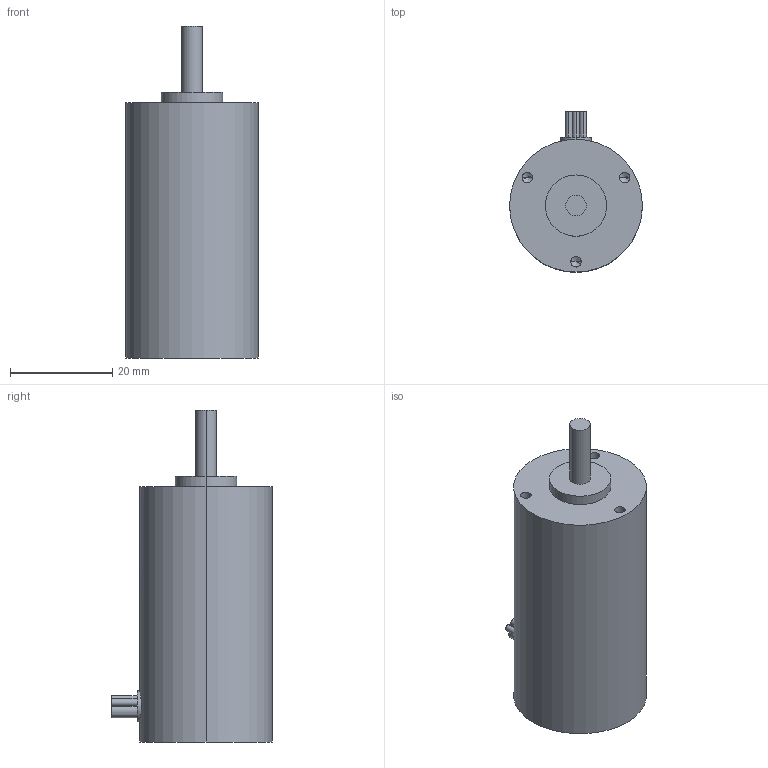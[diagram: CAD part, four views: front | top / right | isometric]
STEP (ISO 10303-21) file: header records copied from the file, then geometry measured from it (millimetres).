
FILE_DESCRIPTION (( 'STEP AP214' ), '1' );
FILE_NAME ('BD-2650.STEP', '2024-10-25T09:07:41', ( '' ), ( '' ), 'SwSTEP 2.0', 'SolidWorks 2024', '' );
FILE_SCHEMA (( 'AUTOMOTIVE_DESIGN' ));
Length unit declared in the file: millimetre
Products named in the file (1): BD-2650
Bounding box: 26 x 31.5 x 65 mm (x, y, z)
Volume: 26964 mm3; surface area: 5568.6 mm2
Topology: 1 solids, 1 shells, 37 faces, 78 edges, 47 vertices
Faces by surface type: cylinder 22, plane 9, cone 6
Entity records: 1045 total; most frequent: CARTESIAN_POINT 219, DIRECTION 188, ORIENTED_EDGE 144, AXIS2_PLACEMENT_3D 80, EDGE_CURVE 72, VERTEX_POINT 47, EDGE_LOOP 47, CIRCLE 42
